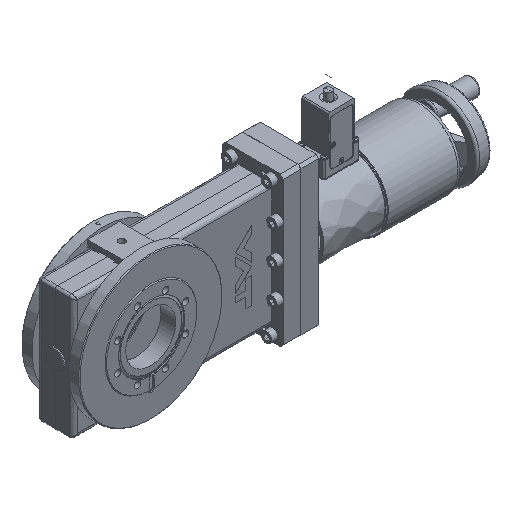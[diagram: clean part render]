
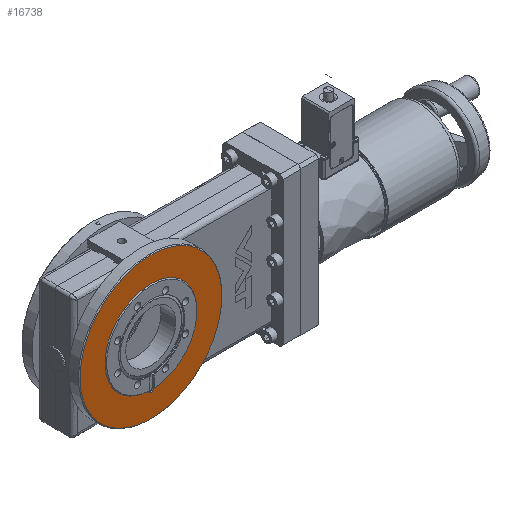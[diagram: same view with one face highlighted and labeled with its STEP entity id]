
A CAD part, isometric view. The second image highlights one B-rep face of the part: STEP entity #16738.
In plain terms, the highlighted free-form (B-spline) face has degree [1, 1] with [2, 2] control points.
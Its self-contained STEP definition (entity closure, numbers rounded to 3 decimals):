
#16434=CARTESIAN_POINT('V73',(-57.75,-1.,
   0.0));
#16435=VERTEX_POINT('V73',#16434);
#16441=CARTESIAN_POINT('V72',(57.672,-1.,
   -3.));
#16442=VERTEX_POINT('V72',#16441);
#16443=CARTESIAN_POINT('E112',(57.672,-1.,
   -3.));
#16444=CARTESIAN_POINT('E112',(56.043,-1.,
   -34.328));
#16445=CARTESIAN_POINT('E112',(28.875,-1.,
   -50.013));
#16446=CARTESIAN_POINT('E112',(-57.75,
   -1.,-100.026));
#16447=CARTESIAN_POINT('E112',(-57.75,
   -1.,0.0));
#16455=(BOUNDED_CURVE()B_SPLINE_CURVE(2,(#16443,#16444,#16445,
   #16446,#16447),.CIRCULAR_ARC.,.F.,.U.)B_SPLINE_CURVE_WITH_KNOTS(
   (3,2,3),(213.506,280.467,
   420.7),.UNSPECIFIED.)CURVE()
   GEOMETRIC_REPRESENTATION_ITEM()RATIONAL_B_SPLINE_CURVE((
   0.751,0.761,1.0,0.5,1.0))
   REPRESENTATION_ITEM('E112'));
#16456=EDGE_CURVE('E112',#16442,#16435,#16455,.T.);
#16615=CARTESIAN_POINT('V75',(57.672,-1.,
   3.));
#16616=VERTEX_POINT('V75',#16615);
#16631=CARTESIAN_POINT('E118',(-57.75,
   -1.,0.0));
#16632=CARTESIAN_POINT('E118',(-57.75,
   -1.,100.026));
#16633=CARTESIAN_POINT('E118',(28.875,-1.,
   50.013));
#16634=CARTESIAN_POINT('E118',(56.043,-1.,
   34.328));
#16635=CARTESIAN_POINT('E118',(57.672,-1.,
   3.));
#16643=(BOUNDED_CURVE()B_SPLINE_CURVE(2,(#16631,#16632,#16633,
   #16634,#16635),.CIRCULAR_ARC.,.F.,.U.)B_SPLINE_CURVE_WITH_KNOTS(
   (3,2,3),(0.0,140.233,207.194),
   .UNSPECIFIED.)CURVE()GEOMETRIC_REPRESENTATION_ITEM()
   RATIONAL_B_SPLINE_CURVE((1.0,0.5,1.0,
   0.761,0.751))REPRESENTATION_ITEM('E118')
   );
#16644=EDGE_CURVE('E118',#16435,#16616,#16643,.T.);
#16689=CARTESIAN_POINT('E119',(57.672,-1.,
   -3.));
#16690=CARTESIAN_POINT('E119',(62.775,-1.,
   -2.92));
#16691=CARTESIAN_POINT('E119',(60.223,-1.,
   1.5));
#16692=CARTESIAN_POINT('E119',(59.373,-1.,
   2.973));
#16693=CARTESIAN_POINT('E119',(57.672,-1.,
   3.));
#16701=(BOUNDED_CURVE()B_SPLINE_CURVE(2,(#16689,#16690,#16691,
   #16692,#16693),.CIRCULAR_ARC.,.F.,.U.)B_SPLINE_CURVE_WITH_KNOTS(
   (3,2,3),(0.005,0.665,0.994),
   .UNSPECIFIED.)CURVE()GEOMETRIC_REPRESENTATION_ITEM()
   RATIONAL_B_SPLINE_CURVE((0.991,0.505,
   1.0,0.753,0.75))REPRESENTATION_ITEM(
   'E119'));
#16702=EDGE_CURVE('E119',#16442,#16616,#16701,.T.);
#16707=CARTESIAN_POINT('F56',(-98.01,-1.,
   -98.01));
#16708=CARTESIAN_POINT('F56',(-98.01,-1.,
   98.01));
#16709=CARTESIAN_POINT('F56',(98.01,-1.,
   -98.01));
#16710=CARTESIAN_POINT('F56',(98.01,-1.,
   98.01));
#16711=QUASI_UNIFORM_SURFACE('F56',1,1,((#16707,#16709),(#16708,
   #16710)),.PLANE_SURF.,.F.,.F.,.U.);
#16712=CARTESIAN_POINT('V55',(-89.1,-1.,
   0.0));
#16713=VERTEX_POINT('V55',#16712);
#16714=CARTESIAN_POINT('E90',(-89.1,-1.,
   0.0));
#16715=CARTESIAN_POINT('E90',(-89.1,-1.,
   154.326));
#16716=CARTESIAN_POINT('E90',(44.55,-1.,
   77.163));
#16717=CARTESIAN_POINT('E90',(178.2,-1.,
   0.));
#16718=CARTESIAN_POINT('E90',(44.55,-1.,
   -77.163));
#16719=CARTESIAN_POINT('E90',(-89.1,-1.,
   -154.326));
#16720=CARTESIAN_POINT('E90',(-89.1,-1.,
   0.0));
#16728=(BOUNDED_CURVE()B_SPLINE_CURVE(2,(#16714,#16715,#16716,
   #16717,#16718,#16719,#16720),.CIRCULAR_ARC.,.T.,.U.)
   B_SPLINE_CURVE_WITH_KNOTS((3,2,2,3),(0.0,0.333,
   0.667,1.0),.UNSPECIFIED.)CURVE()
   GEOMETRIC_REPRESENTATION_ITEM()RATIONAL_B_SPLINE_CURVE((1.0,
   0.5,1.0,0.5,1.0,0.5,1.0)
   )REPRESENTATION_ITEM('E90'));
#16729=EDGE_CURVE('E90',#16713,#16713,#16728,.T.);
#16730=ORIENTED_EDGE('E90',*,*,#16729,.F.);
#16731=EDGE_LOOP('F56',(#16730));
#16732=FACE_OUTER_BOUND('F56',#16731,.F.);
#16733=ORIENTED_EDGE('F58',*,*,#16702,.F.);
#16734=ORIENTED_EDGE('E112',*,*,#16456,.T.);
#16735=ORIENTED_EDGE('E118',*,*,#16644,.T.);
#16736=EDGE_LOOP('F56',(#16733,#16734,#16735));
#16737=FACE_BOUND('F56',#16736,.F.);
#16738=ADVANCED_FACE('F56',(#16732,#16737),#16711,.T.);
